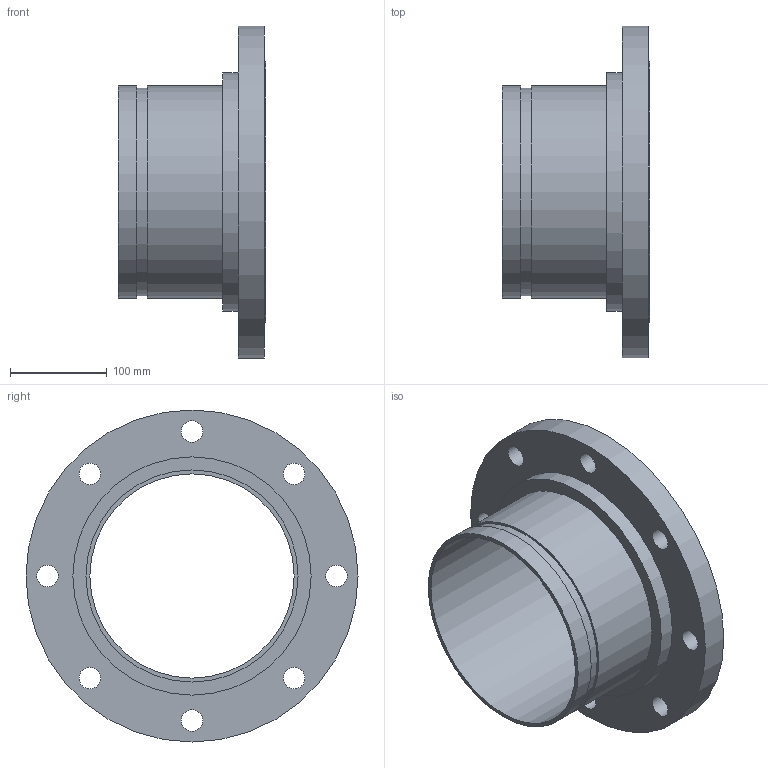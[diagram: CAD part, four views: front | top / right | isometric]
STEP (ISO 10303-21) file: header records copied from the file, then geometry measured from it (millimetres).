
FILE_DESCRIPTION(/* description */ ('VIC No 445R FLANGE ADAPTER NIPPE (ANSI)','CAx-IF Rec.Pracs.---Representation and Presentation of Product Manufacturing Information (PMI)---4.0---2014-10-13'),/* implementation_level */ '2;1');
FILE_NAME(/* name */ 'C:\Users\kkamble\AppData\Roaming\Autodesk\ApplicationPlugins\Back Up\Victaulic_SS-OGS_Flanged Adapter Nipple_CL 150 RF_Style 445R (OGSxFLG)\Victaulic_SS-OGS_Flanged Adapter Nipple_CL 150 RF_Style 445R (OGSxFLG)_8 (200).stp',/* time_stamp */ '2020-08-27T09:31:18+05:00',/* author */ ('jbrannon'),/* organization */ ('Victaulic'),/* preprocessor_version */ 'ST-DEVELOPER v17.2',/* originating_system */ 'Autodesk Inventor 2019',/* authorisation */ '');
FILE_SCHEMA (('AP242_MANAGED_MODEL_BASED_3D_ENGINEERING_MIM_LF { 1 0 10303 442 1 1 4 }'));
Length unit declared in the file: inch
Products named in the file (1): 445R-08.0
Bounding box: 152.4 x 342.9 x 342.9 mm (x, y, z)
Volume: 1976661.1 mm3; surface area: 344633.9 mm2
Topology: 1 solids, 1 shells, 22 faces, 59 edges, 44 vertices
Faces by surface type: cylinder 15, plane 7
Full cylindrical faces by diameter (mm): 22.352 x8, 210.947 x1, 214.401 x1, 219.075 x2, 246.126 x1, 269.748 x1, 342.9 x1
Entity records: 929 total; most frequent: DIRECTION 175, CARTESIAN_POINT 143, ORIENTED_EDGE 118, AXIS2_PLACEMENT_3D 80, EDGE_CURVE 59, EDGE_LOOP 45, CIRCLE 44, VERTEX_POINT 44
